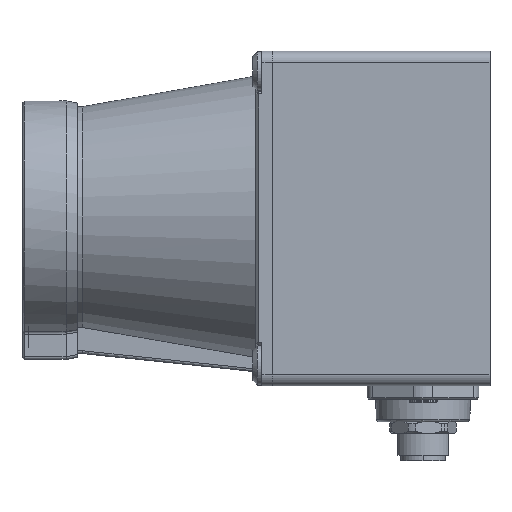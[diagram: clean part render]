
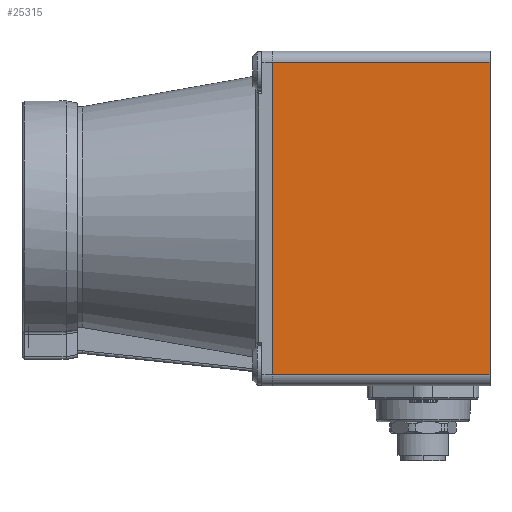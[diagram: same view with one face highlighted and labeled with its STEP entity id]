
A CAD part, left-side view. The second image highlights one B-rep face of the part: STEP entity #25315.
In plain terms, the highlighted free-form (B-spline) face has degree [1, 1] with [2, 2] control points.
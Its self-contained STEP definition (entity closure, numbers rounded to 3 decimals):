
#25315 = ADVANCED_FACE('',(#25316),#25350,.T.);
#25316 = FACE_BOUND('',#25317,.T.);
#25317 = EDGE_LOOP('',(#25318,#25328,#25336,#25344));
#25318 = ORIENTED_EDGE('',*,*,#25319,.T.);
#25319 = EDGE_CURVE('',#25320,#25322,#25324,.T.);
#25320 = VERTEX_POINT('',#25321);
#25321 = CARTESIAN_POINT('',(-30.,0.,-28.));
#25322 = VERTEX_POINT('',#25323);
#25323 = CARTESIAN_POINT('',(-30.,0.,28.));
#25324 = LINE('',#25325,#25326);
#25325 = CARTESIAN_POINT('',(-30.,0.,-28.));
#25326 = VECTOR('',#25327,1.);
#25327 = DIRECTION('',(0.,0.,1.));
#25328 = ORIENTED_EDGE('',*,*,#25329,.T.);
#25329 = EDGE_CURVE('',#25322,#25330,#25332,.T.);
#25330 = VERTEX_POINT('',#25331);
#25331 = CARTESIAN_POINT('',(-30.,-39.,28.));
#25332 = LINE('',#25333,#25334);
#25333 = CARTESIAN_POINT('',(-30.,0.,28.));
#25334 = VECTOR('',#25335,1.);
#25335 = DIRECTION('',(0.,-1.,0.));
#25336 = ORIENTED_EDGE('',*,*,#25337,.T.);
#25337 = EDGE_CURVE('',#25330,#25338,#25340,.T.);
#25338 = VERTEX_POINT('',#25339);
#25339 = CARTESIAN_POINT('',(-30.,-39.,-28.));
#25340 = LINE('',#25341,#25342);
#25341 = CARTESIAN_POINT('',(-30.,-39.,28.));
#25342 = VECTOR('',#25343,1.);
#25343 = DIRECTION('',(0.,0.,-1.));
#25344 = ORIENTED_EDGE('',*,*,#25345,.T.);
#25345 = EDGE_CURVE('',#25338,#25320,#25346,.T.);
#25346 = LINE('',#25347,#25348);
#25347 = CARTESIAN_POINT('',(-30.,-39.,-28.));
#25348 = VECTOR('',#25349,1.);
#25349 = DIRECTION('',(0.,1.,0.));
#25350 = B_SPLINE_SURFACE_WITH_KNOTS('',1,1,(
    (#25351,#25352)
    ,(#25353,#25354
    )),.UNSPECIFIED.,.F.,.F.,.F.,(2,2),(2,2),(0.,1.),(0.,1.),
  .PIECEWISE_BEZIER_KNOTS.);
#25351 = CARTESIAN_POINT('',(-30.,-39.,28.));
#25352 = CARTESIAN_POINT('',(-30.,0.,28.));
#25353 = CARTESIAN_POINT('',(-30.,-39.,-28.));
#25354 = CARTESIAN_POINT('',(-30.,0.,-28.));
